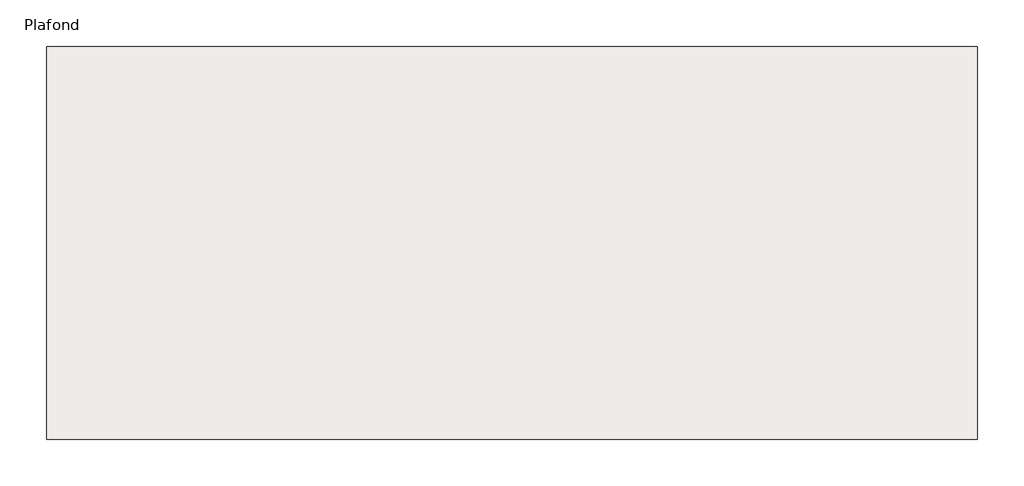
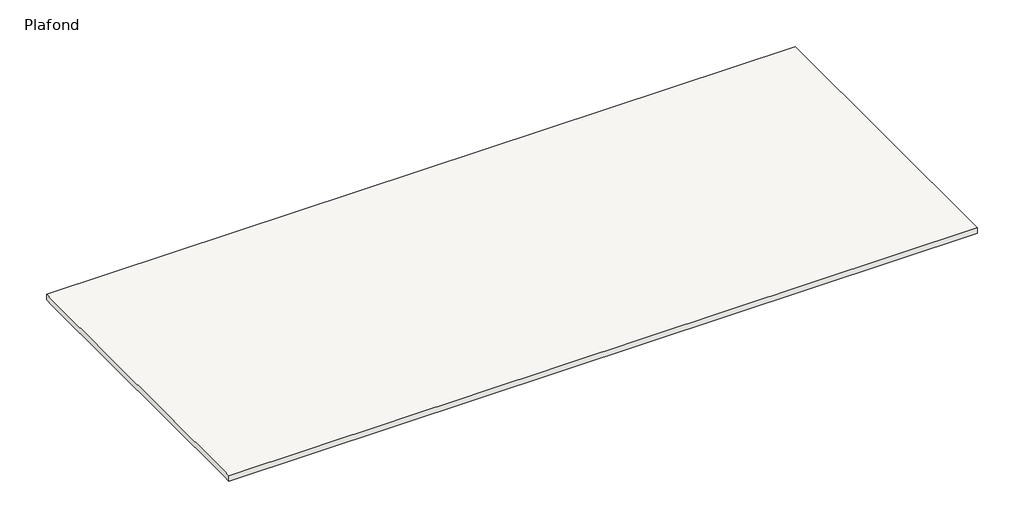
# One storey: 1 covering.
"""IFC4 building model written with IfcOpenShell, lengths in millimetres."""

from ifc_helpers import new_model, si_unit, origin, place, context, project, spatial, faceted_brep, element, save

model = new_model("IFC4")

# Units and contexts
model_context = context("Model", 3, world=origin())
ifc_project = project(units=[si_unit("LENGTHUNIT", "METRE", prefix="MILLI")], contexts=[model_context])

# Site, building, storey
site = spatial("IfcSite", under=ifc_project)
building = spatial("IfcBuilding", under=site)
storey = spatial("IfcBuildingStorey", under=building, Name="Plafond", Elevation=3500.0)

# Covering
placement = place(None, origin())
element("IfcCovering", 1, ObjectType="Plafond avec isolation", at=placement, inside=storey, context=model_context, shape_type="Brep", body=[
    faceted_brep([(12068.5031637, 1746.0506387, 3570.0), (3068.5031637, 1746.0506387, 3570.0), (3068.5031637, 1646.0506387, 3570.0), (3068.5031637, -1953.9493613, 3570.0), (3068.5031637, -2053.9493613, 3570.0), (12068.5031637, -2053.9493613, 3570.0), (12068.5031637, 1746.0506387, 3500.0), (12068.5031637, -2053.9493613, 3500.0), (3068.5031637, -2053.9493613, 3500.0), (3068.5031637, -1953.9493613, 3500.0), (3068.5031637, 1646.0506387, 3500.0), (3068.5031637, 1746.0506387, 3500.0)], [[[0, 1, 2, 3, 4, 5]], [[6, 7, 8, 9, 10, 11]], [[1, 0, 6, 11]], [[4, 3, 2, 1, 11, 10, 9, 8]], [[5, 4, 8, 7]], [[0, 5, 7, 6]]]),
])

save(model, "model.ifc")
